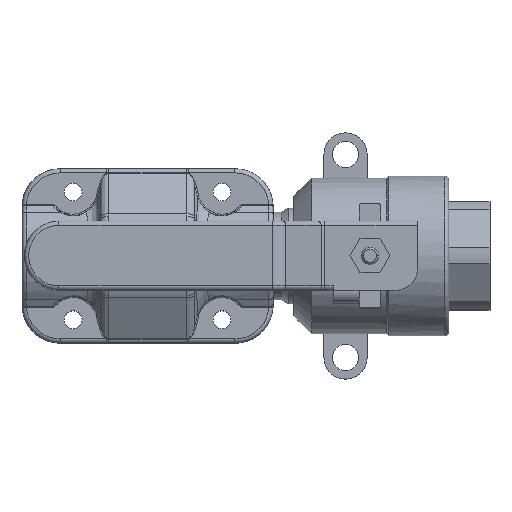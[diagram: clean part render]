
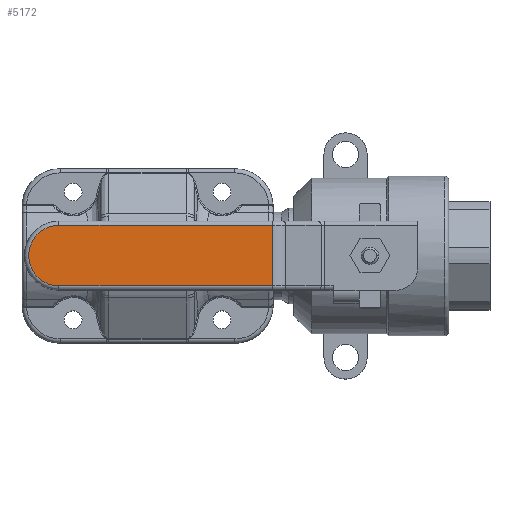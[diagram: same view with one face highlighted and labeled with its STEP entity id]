
A CAD part, top view. The second image highlights one B-rep face of the part: STEP entity #5172.
In plain terms, the highlighted planar face has unit normal (0, 0, 1).
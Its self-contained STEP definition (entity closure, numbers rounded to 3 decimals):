
#2464=DIRECTION('',(1.,0.,0.));
#2465=VECTOR('',#2464,50.148);
#2466=CARTESIAN_POINT('',(-22.327,7.104,48.926));
#2467=LINE('',#2466,#2465);
#2471=DIRECTION('',(0.,1.,0.));
#2472=VECTOR('',#2471,14.208);
#2473=CARTESIAN_POINT('',(27.821,-7.104,48.926));
#2474=LINE('',#2473,#2472);
#2478=DIRECTION('',(-1.,0.,0.));
#2479=VECTOR('',#2478,50.148);
#2480=CARTESIAN_POINT('',(27.821,-7.104,48.926));
#2481=LINE('',#2480,#2479);
#2485=CARTESIAN_POINT('',(-22.327,0.,48.926));
#2486=DIRECTION('',(0.,0.,-1.));
#2487=DIRECTION('',(0.,-1.,0.));
#2488=AXIS2_PLACEMENT_3D('',#2485,#2486,#2487);
#3063=CARTESIAN_POINT('',(27.821,7.104,48.926));
#3064=VERTEX_POINT('',#3063);
#3067=CARTESIAN_POINT('',(-22.327,7.104,48.926));
#3068=VERTEX_POINT('',#3067);
#3071=CARTESIAN_POINT('',(-22.327,-7.104,48.926));
#3072=VERTEX_POINT('',#3071);
#3075=CARTESIAN_POINT('',(27.821,-7.104,48.926));
#3076=VERTEX_POINT('',#3075);
#5160=CARTESIAN_POINT('',(29.776,8.119,48.926));
#5161=DIRECTION('',(0.,0.,1.));
#5162=DIRECTION('',(-1.,0.,0.));
#5163=AXIS2_PLACEMENT_3D('',#5160,#5161,#5162);
#5164=PLANE('',#5163);
#5165=ORIENTED_EDGE('',*,*,#5073,.T.);
#5167=ORIENTED_EDGE('',*,*,#5166,.F.);
#5168=ORIENTED_EDGE('',*,*,#5154,.T.);
#5169=ORIENTED_EDGE('',*,*,#5058,.T.);
#5170=EDGE_LOOP('',(#5165,#5167,#5168,#5169));
#5171=FACE_OUTER_BOUND('',#5170,.F.);
#2489=CIRCLE('',#2488,7.104);
#5058=EDGE_CURVE('',#3072,#3068,#2489,.T.);
#5073=EDGE_CURVE('',#3068,#3064,#2467,.T.);
#5154=EDGE_CURVE('',#3076,#3072,#2481,.T.);
#5166=EDGE_CURVE('',#3076,#3064,#2474,.T.);
#5172=ADVANCED_FACE('',(#5171),#5164,.T.);
